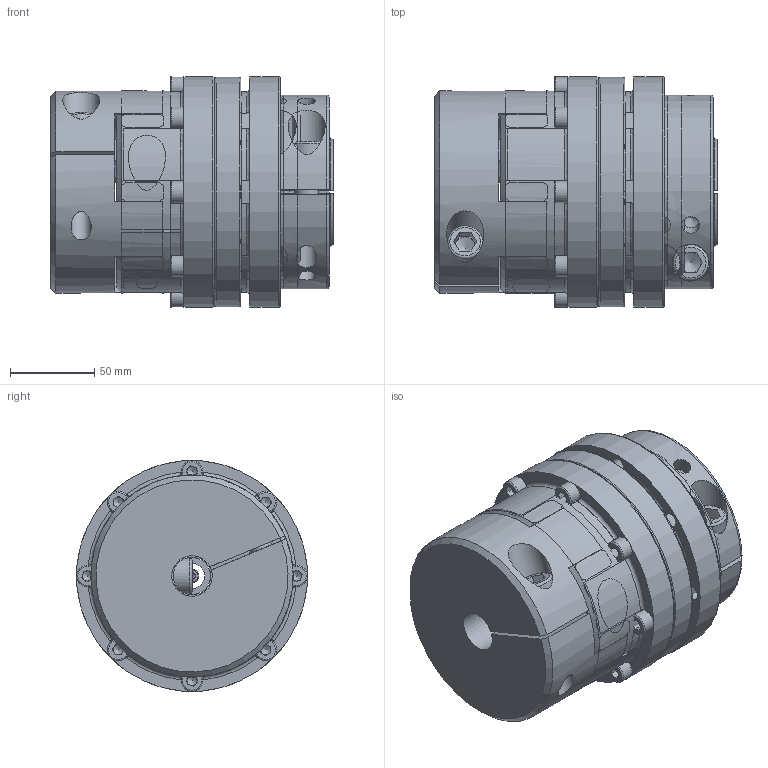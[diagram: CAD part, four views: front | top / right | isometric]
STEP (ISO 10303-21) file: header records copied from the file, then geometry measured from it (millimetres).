
FILE_DESCRIPTION( ( 'Unknown' ), '1' );
FILE_NAME( 'F:/JAKOB-STEP+IGES-Dateien/STEP-Dateien/SKB-EK/SKB-EK 500.stp', 'Unknown', ( 'Unknown' ), ( 'Unknown' ), 'XStep 1.0', 'Unknown', ' ' );
FILE_SCHEMA( ( 'CONFIG_CONTROL_DESIGN' ) );
Length unit declared in the file: millimetre
Products named in the file (11): Assem1; SKB 500; 23917267; KT102271; KT102587; KT102465; KT100274; SKB 480; Elastomerteil 5; KT101199; kt100627
Bounding box: 167.5 x 137 x 137 mm (x, y, z)
Surface area: 754753.4 mm2
Topology: 32 solids, 32 shells, 1355 faces, 3811 edges, 2444 vertices
Faces by surface type: cylinder 465, plane 455, cone 207, torus 180, sphere 48
Full cylindrical faces by diameter (mm): 1.5 x3, 2.5 x6, 6.8 x27, 8 x28, 8.6 x16, 10.5 x9, 12 x5, 13 x9, 14 x4, 14.5 x5, 15 x2, 21 x4, 22 x7, 22.5 x2, 27 x3, 58 x4, 67 x3, 69.8 x3, 70 x6, 73 x2, 78 x3, 80 x3, 82.8 x6, 97.6 x6, 110 x8, 115.4 x3, 115.8 x3, 119.8 x3, 130 x3, 132 x3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
Entity records: 18328 total; most frequent: CARTESIAN_POINT 5755, DIRECTION 2522, ORIENTED_EDGE 2450, EDGE_CURVE 1225, AXIS2_PLACEMENT_3D 1097, VERTEX_POINT 842, EDGE_LOOP 688, CIRCLE 589
